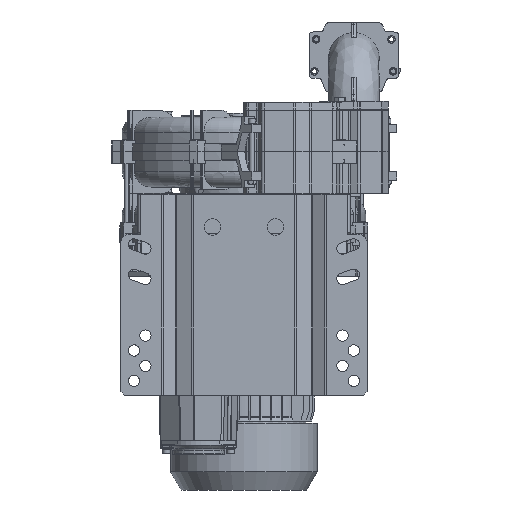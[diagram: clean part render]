
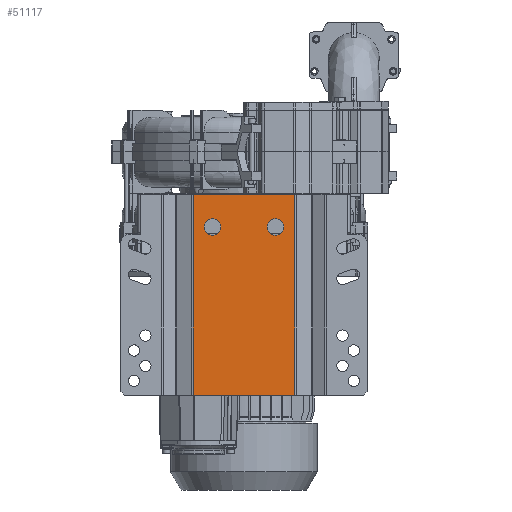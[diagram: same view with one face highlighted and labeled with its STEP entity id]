
A CAD part, front view. The second image highlights one B-rep face of the part: STEP entity #51117.
In plain terms, the highlighted planar face has unit normal (0, -1, 0).
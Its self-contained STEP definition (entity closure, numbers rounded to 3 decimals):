
#2680 = VECTOR ( 'NONE', #69292, 1000. ) ;
#3205 = DIRECTION ( 'NONE',  ( 0., 0., -1. ) ) ;
#5828 = CARTESIAN_POINT ( 'NONE',  ( 67.005, -199., 214.4 ) ) ;
#16932 = LINE ( 'NONE', #152107, #130437 ) ;
#19374 = DIRECTION ( 'NONE',  ( -1., 0., 0. ) ) ;
#19563 = DIRECTION ( 'NONE',  ( 0., -1., 0. ) ) ;
#19782 = CARTESIAN_POINT ( 'NONE',  ( 41.5, -199., 171.4 ) ) ;
#19936 = CARTESIAN_POINT ( 'NONE',  ( -67.005, -199., 214.4 ) ) ;
#21676 = EDGE_LOOP ( 'NONE', ( #43603 ) ) ;
#22492 = VECTOR ( 'NONE', #109336, 1000. ) ;
#26953 = CIRCLE ( 'NONE', #122607, 11. ) ;
#30216 = ORIENTED_EDGE ( 'NONE', *, *, #99257, .T. ) ;
#30833 = DIRECTION ( 'NONE',  ( 0., 0., 1. ) ) ;
#31752 = FACE_BOUND ( 'NONE', #108041, .T. ) ;
#42161 = CARTESIAN_POINT ( 'NONE',  ( -67.005, -199., 214.4 ) ) ;
#43603 = ORIENTED_EDGE ( 'NONE', *, *, #46616, .T. ) ;
#46616 = EDGE_CURVE ( 'NONE', #85557, #85557, #26953, .T. ) ;
#49059 = CIRCLE ( 'NONE', #134374, 11. ) ;
#51117 = ADVANCED_FACE ( 'NONE', ( #131246, #103784, #31752 ), #153925, .T. ) ;
#61384 = EDGE_CURVE ( 'NONE', #117449, #145829, #81666, .T. ) ;
#68080 = CARTESIAN_POINT ( 'NONE',  ( 67.005, -199., 214.4 ) ) ;
#69133 = DIRECTION ( 'NONE',  ( 0., 0., 1. ) ) ;
#69292 = DIRECTION ( 'NONE',  ( 0., 0., -1. ) ) ;
#70334 = CARTESIAN_POINT ( 'NONE',  ( 67.005, -199., 214.4 ) ) ;
#73155 = ORIENTED_EDGE ( 'NONE', *, *, #130170, .F. ) ;
#79829 = CARTESIAN_POINT ( 'NONE',  ( 67.005, -199., -50.6 ) ) ;
#80501 = VECTOR ( 'NONE', #19374, 1000. ) ;
#81666 = LINE ( 'NONE', #70334, #80501 ) ;
#82624 = VERTEX_POINT ( 'NONE', #79829 ) ;
#85557 = VERTEX_POINT ( 'NONE', #160010 ) ;
#85647 = ORIENTED_EDGE ( 'NONE', *, *, #111636, .F. ) ;
#93564 = CARTESIAN_POINT ( 'NONE',  ( -41.5, -199., 182.4 ) ) ;
#94589 = VERTEX_POINT ( 'NONE', #155941 ) ;
#99257 = EDGE_CURVE ( 'NONE', #145829, #94589, #143723, .T. ) ;
#99320 = ORIENTED_EDGE ( 'NONE', *, *, #108101, .F. ) ;
#103784 = FACE_OUTER_BOUND ( 'NONE', #151075, .T. ) ;
#105387 = DIRECTION ( 'NONE',  ( 0., 0., 1. ) ) ;
#106094 = CARTESIAN_POINT ( 'NONE',  ( -41.5, -199., 171.4 ) ) ;
#108041 = EDGE_LOOP ( 'NONE', ( #73155 ) ) ;
#108101 = EDGE_CURVE ( 'NONE', #117449, #82624, #16932, .T. ) ;
#108550 = CARTESIAN_POINT ( 'NONE',  ( 67.005, -199., -50.6 ) ) ;
#109336 = DIRECTION ( 'NONE',  ( -1., 0., 0. ) ) ;
#111636 = EDGE_CURVE ( 'NONE', #82624, #94589, #157082, .T. ) ;
#117412 = DIRECTION ( 'NONE',  ( 0., -1., 0. ) ) ;
#117449 = VERTEX_POINT ( 'NONE', #68080 ) ;
#122607 = AXIS2_PLACEMENT_3D ( 'NONE', #19782, #153361, #69133 ) ;
#130170 = EDGE_CURVE ( 'NONE', #145250, #145250, #49059, .T. ) ;
#130437 = VECTOR ( 'NONE', #3205, 1000. ) ;
#131246 = FACE_BOUND ( 'NONE', #21676, .T. ) ;
#133935 = AXIS2_PLACEMENT_3D ( 'NONE', #5828, #19563, #105387 ) ;
#134374 = AXIS2_PLACEMENT_3D ( 'NONE', #106094, #117412, #30833 ) ;
#143723 = LINE ( 'NONE', #19936, #2680 ) ;
#145250 = VERTEX_POINT ( 'NONE', #93564 ) ;
#145829 = VERTEX_POINT ( 'NONE', #42161 ) ;
#151075 = EDGE_LOOP ( 'NONE', ( #85647, #99320, #152622, #30216 ) ) ;
#152107 = CARTESIAN_POINT ( 'NONE',  ( 67.005, -199., 214.4 ) ) ;
#152622 = ORIENTED_EDGE ( 'NONE', *, *, #61384, .T. ) ;
#153361 = DIRECTION ( 'NONE',  ( 0., 1., 0. ) ) ;
#153925 = PLANE ( 'NONE',  #133935 ) ;
#155941 = CARTESIAN_POINT ( 'NONE',  ( -67.005, -199., -50.6 ) ) ;
#157082 = LINE ( 'NONE', #108550, #22492 ) ;
#160010 = CARTESIAN_POINT ( 'NONE',  ( 41.5, -199., 182.4 ) ) ;
